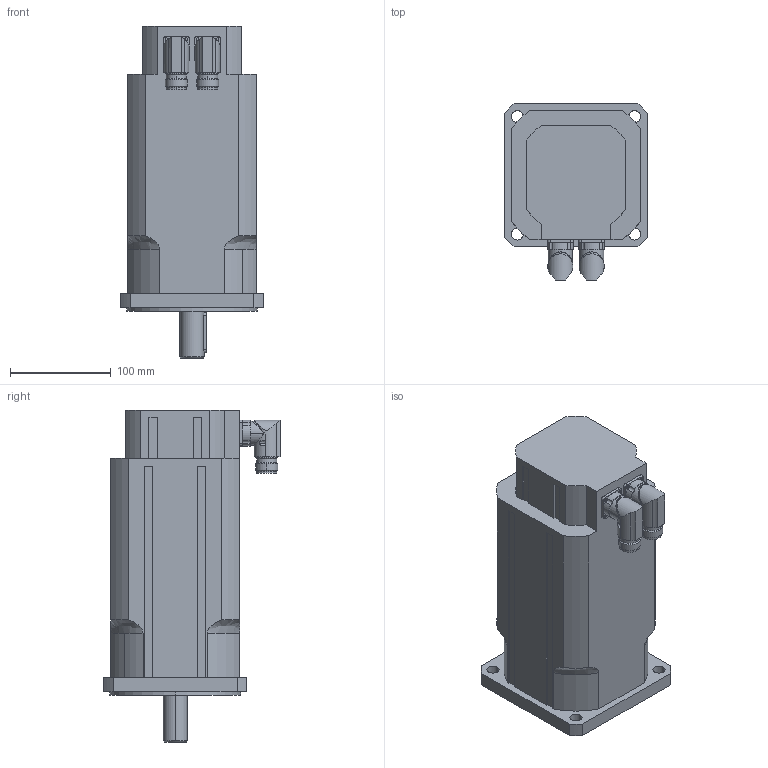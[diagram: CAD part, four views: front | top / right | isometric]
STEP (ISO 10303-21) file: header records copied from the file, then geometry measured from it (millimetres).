
FILE_DESCRIPTION(('STEP AP203'),'2;1');
FILE_NAME('MT5-1700_X.stp','2006-08-28T20:52:00',(''),(''),'2005.2.102','THINKDESIGN','');
FILE_SCHEMA(('CONFIG_CONTROL_DESIGN'));
Length unit declared in the file: millimetre
Bounding box: 142 x 175.5 x 330 mm (x, y, z)
Volume: 4230218.6 mm3; surface area: 200064.9 mm2
Topology: 3 solids, 3 shells, 255 faces, 679 edges, 439 vertices
Faces by surface type: cylinder 110, plane 107, bspline 38
Full cylindrical faces by diameter (mm): 20 x2
Entity records: 9316 total; most frequent: CARTESIAN_POINT 2863, ORIENTED_EDGE 1354, DIRECTION 1327, EDGE_CURVE 677, AXIS2_PLACEMENT_3D 493, VERTEX_POINT 439, VECTOR 341, LINE 341
